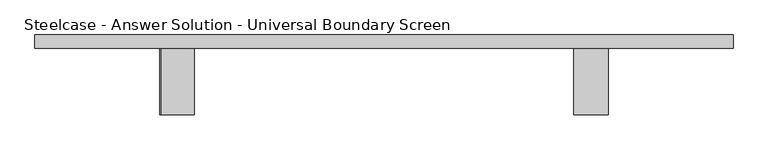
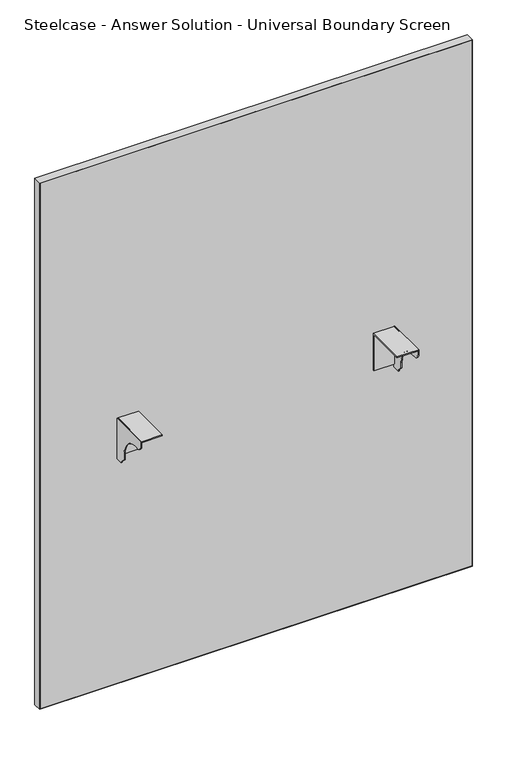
"""IFC4 building model written with IfcOpenShell, lengths in millimetres: furniture geometry, Steelcase - Answer Solution - Universal Boundary Screen : 54H x 42W."""

from ifc_helpers import new_model, si_unit, point, frame, frame_2d, origin, place, context, project, spatial, polyline, circle_curve, trimmed, segment, composite_curve, outline, extrude, source, transform, mapped, element, save


def steelcase_answer_solution_universal_boundary_screen_5f79d62e(model_context):
    return source(origin(), model_context, "Body", "SweptSolid", [
        extrude(outline(polyline([(-103.1670434, 689.3558876), (-103.1670434, 692.1499758), (-1.5668826, 692.1499758), (-1.5668826, 595.5029317), (-4.1079736, 595.5029317), (-4.1079736, 689.3558876), (-103.1670434, 689.3558876)])), frame((819.6336711, 0.0, 0.0), z_axis=(1.0, 0.0, 0.0), x_axis=(0.0, 1.0, 0.0)), (0.0, 0.0, 1.0), 53.3444116),
        extrude(outline(composite_curve([segment(polyline([(-103.1670434, 679.2814802), (-103.1670434, 692.1499758), (-1.5668826, 692.1499758), (-1.5668826, 586.9634093), (-19.8232934, 586.9634093), (-19.8232934, 589.7574248), (-32.0458032, 601.9799346), (-32.0458032, 615.7814802)]), True, "CONTINUOUS"), segment(trimmed(circle_curve(frame_2d((-82.8458032, 615.7814802)), 50.8), [point((-32.0458032, 615.7814802))], [point((-82.8458032, 666.5814802))], True, "CARTESIAN"), True, "CONTINUOUS"), segment(polyline([(-82.8458032, 666.5814802), (-90.4670434, 666.5814802)]), True, "CONTINUOUS"), segment(trimmed(circle_curve(frame_2d((-90.4670434, 679.2814802)), 12.7), [point((-90.4670434, 666.5814802))], [point((-103.1670434, 679.2814802))], False, "CARTESIAN"), True, "CONTINUOUS")], self_intersect=False)), frame((870.4328959, 0.0, 0.0), z_axis=(1.0, 0.0, 0.0), x_axis=(0.0, 1.0, 0.0)), (0.0, 0.0, 1.0), 2.5451868),
        extrude(outline(polyline([(-103.1670434, 689.3558876), (-103.1670434, 692.1499758), (-1.5668826, 692.1499758), (-1.5668826, 595.5029317), (-4.1079736, 595.5029317), (-4.1079736, 689.3558876), (-103.1670434, 689.3558876)])), frame((189.7232694, 0.0, 0.0), z_axis=(1.0, 0.0, 0.0), x_axis=(0.0, 1.0, 0.0)), (0.0, 0.0, 1.0), 50.7992249),
        extrude(outline(composite_curve([segment(polyline([(-103.1670434, 679.2814802), (-103.1670434, 692.1499758), (-1.5668826, 692.1499758), (-1.5668826, 586.9634093), (-19.8232934, 586.9634093), (-19.8232934, 589.7574248), (-32.0458032, 601.9799346), (-32.0458032, 615.7814802)]), True, "CONTINUOUS"), segment(trimmed(circle_curve(frame_2d((-82.8458032, 615.7814802)), 50.8), [point((-32.0458032, 615.7814802))], [point((-82.8458032, 666.5814802))], True, "CARTESIAN"), True, "CONTINUOUS"), segment(polyline([(-82.8458032, 666.5814802), (-90.4670434, 666.5814802)]), True, "CONTINUOUS"), segment(trimmed(circle_curve(frame_2d((-90.4670434, 679.2814802)), 12.7), [point((-90.4670434, 666.5814802))], [point((-103.1670434, 679.2814802))], False, "CARTESIAN"), True, "CONTINUOUS")], self_intersect=False)), frame((187.1780827, 0.0, 0.0), z_axis=(1.0, 0.0, 0.0), x_axis=(0.0, 1.0, 0.0)), (0.0, 0.0, 1.0), 2.5451868),
        extrude(outline(polyline([(-2.3293422, 18.9055112), (1062.4855076, 18.9055112), (1062.4855076, -1.5668826), (-2.3293422, -1.5668826), (-2.3293422, 18.9055112)])), frame((0.0, 0.0, 1.016), z_axis=(0.0, 0.0, 1.0), x_axis=(1.0, 0.0, 0.0)), (0.0, 0.0, 1.0), 1369.5914249),
        extrude(outline(polyline([(1371.6, 1063.4780827), (1371.6, -3.3219173), (0.0, -3.3219173), (0.0, 1063.4780827), (1371.6, 1063.4780827)]), holes=[polyline([(1370.6074249, 1062.4855076), (1.016, 1062.4855076), (1.016, -2.3293422), (1370.6074249, -2.3293422), (1370.6074249, 1062.4855076)])]), frame((0.0, -1.5668826, 0.0), z_axis=(0.0, 1.0, 0.0), x_axis=(0.0, 0.0, 1.0)), (0.0, 0.0, 1.0), 20.4723938),
    ])


if __name__ == "__main__":
    model = new_model("IFC4")
    model_context = context("Model", 3, world=origin())
    ifc_project = project(units=[si_unit("LENGTHUNIT", "METRE", prefix="MILLI")], contexts=[model_context])
    site = spatial("IfcSite", under=ifc_project)
    building = spatial("IfcBuilding", under=site)
    placement = place(None, origin())
    steelcase_answer_solution_universal_boundary_screen_shape = steelcase_answer_solution_universal_boundary_screen_5f79d62e(model_context)
    element("IfcFurniture", 1, ObjectType="Steelcase - Answer Solution - Universal Boundary Screen : 54H x 42W", at=placement, inside=building, context=model_context, shape_type="MappedRepresentation", body=[
        mapped(steelcase_answer_solution_universal_boundary_screen_shape, transform((0.0, 0.0, 0.0), x_axis=(1.0, 0.0, 0.0), y_axis=(0.0, 1.0, 0.0), z_axis=(0.0, 0.0, 1.0))),
    ])
    save(model, "model.ifc")
